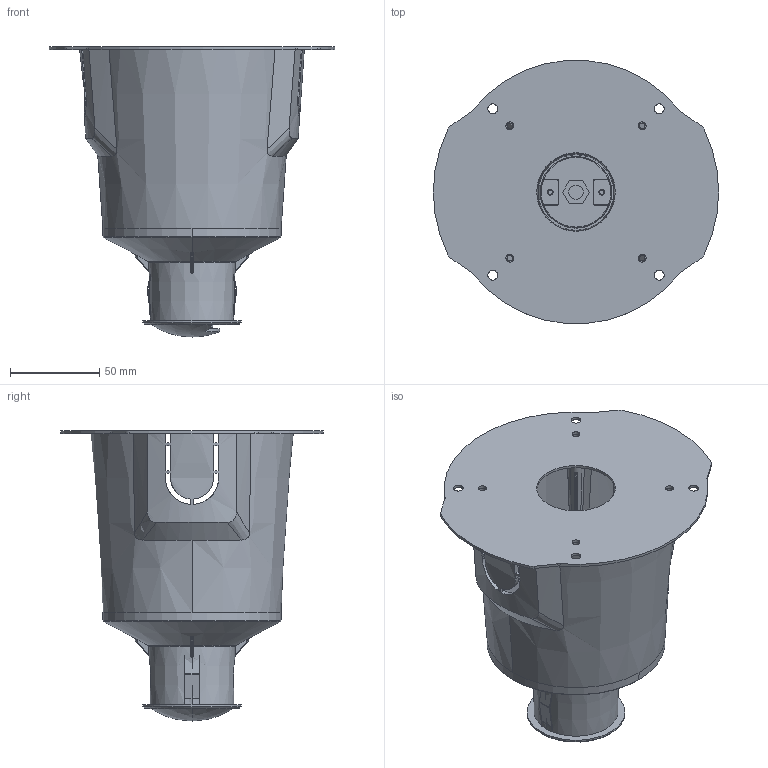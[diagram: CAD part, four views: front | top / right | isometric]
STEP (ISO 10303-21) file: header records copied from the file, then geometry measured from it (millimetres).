
FILE_DESCRIPTION((''),'2;1');
FILE_NAME('A08_ASM','2024-08-28T',('C027'),(''),'CREO PARAMETRIC BY PTC INC, 2014500','CREO PARAMETRIC BY PTC INC, 2014500','');
FILE_SCHEMA(('CONFIG_CONTROL_DESIGN'));
Length unit declared in the file: millimetre
Products named in the file (20): 2YA-_W_I___D___1_ANY_1; YMTDG_2; 2WDR-B01-___P-____55_1_ANY_1; A08_ASM_4_ASM; 2W__1_1_1_1_1; POWER-BOX_1_1_1_1_1; BACK-COVER_1_1_1_1_1; ASM0002_ASM_1_ASM_1_ASM_1_ASM_2_ASM; KAHUANG_1_1_1_1_1; PRT0011_1_1_1_1_1; 2WA-1_1_1_1_2_1; BOLI-2_1_1_1_1_1; 12A_1_114_1_1_1_1_1; PCB-002_1_1_1_1_1; MSBR-4_1_1_1_1_1; MSBR-6_1_1_1_1_1; 00000_1_1_1_1_1; ASM0001_ASM_1_ASM_1_ASM_1_ASM_2_ASM; ASM0001_ASM; A08_ASM
Assembly tree (19 placements, depth 5):
  A08_ASM
    A08_ASM_4_ASM
      2YA-_W_I___D___1_ANY_1
      YMTDG_2
      2WDR-B01-___P-____55_1_ANY_1
    ASM0001_ASM
      ASM0001_ASM_1_ASM_1_ASM_1_ASM_2_ASM
        2W__1_1_1_1_1
        POWER-BOX_1_1_1_1_1
        ASM0002_ASM_1_ASM_1_ASM_1_ASM_2_ASM
          BACK-COVER_1_1_1_1_1
        KAHUANG_1_1_1_1_1
        PRT0011_1_1_1_1_1
        2WA-1_1_1_1_2_1
        BOLI-2_1_1_1_1_1
        12A_1_114_1_1_1_1_1
        PCB-002_1_1_1_1_1
        MSBR-4_1_1_1_1_1
        MSBR-6_1_1_1_1_1
        00000_1_1_1_1_1
Bounding box: 160.03 x 147.5 x 162.68 mm (x, y, z)
Volume: 216625.9 mm3; surface area: 192896.1 mm2
Topology: 15 solids, 15 shells, 1194 faces, 3258 edges, 2126 vertices
Faces by surface type: plane 621, cylinder 300, cone 147, bspline 87, torus 25, sphere 14
Entity records: 49357 total; most frequent: CARTESIAN_POINT 19928, ORIENTED_EDGE 6488, DIRECTION 5568, EDGE_CURVE 3244, AXIS2_PLACEMENT_3D 2137, VERTEX_POINT 2126, EDGE_LOOP 1328, VECTOR 1294
